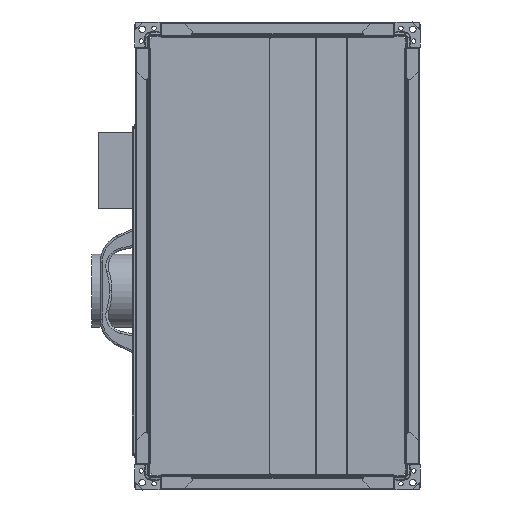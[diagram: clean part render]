
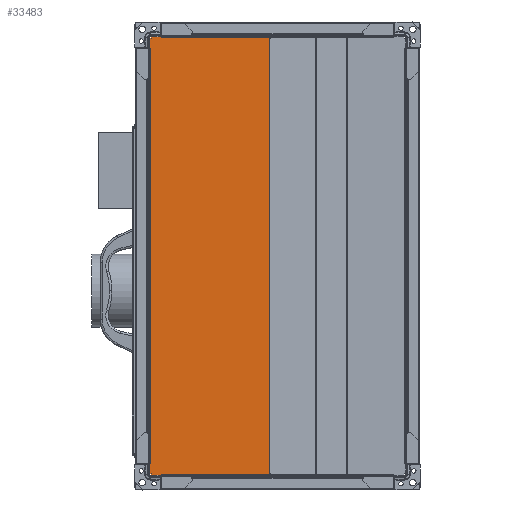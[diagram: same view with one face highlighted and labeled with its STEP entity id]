
A CAD part, left-side view. The second image highlights one B-rep face of the part: STEP entity #33483.
In plain terms, the highlighted planar face has unit normal (-1, 0, 0).
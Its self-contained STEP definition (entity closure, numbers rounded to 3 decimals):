
#2829=FACE_OUTER_BOUND('',#4608,.T.);
#4608=EDGE_LOOP('',(#24465,#24466,#24467,#24468,#24469,#24470,#24471,#24472,
#24473,#24474,#24475,#24476));
#7598=LINE('',#52947,#10736);
#7624=LINE('',#53004,#10762);
#7648=LINE('',#53057,#10786);
#7652=LINE('',#53065,#10790);
#7698=LINE('',#53150,#10836);
#7727=LINE('',#53198,#10865);
#7728=LINE('',#53201,#10866);
#7729=LINE('',#53202,#10867);
#7730=LINE('',#53204,#10868);
#7731=LINE('',#53206,#10869);
#7732=LINE('',#53207,#10870);
#7733=LINE('',#53208,#10871);
#10736=VECTOR('',#39187,10.);
#10762=VECTOR('',#39227,10.);
#10786=VECTOR('',#39265,10.);
#10790=VECTOR('',#39271,10.);
#10836=VECTOR('',#39333,10.);
#10865=VECTOR('',#39372,10.);
#10866=VECTOR('',#39375,10.);
#10867=VECTOR('',#39376,10.);
#10868=VECTOR('',#39377,10.);
#10869=VECTOR('',#39378,10.);
#10870=VECTOR('',#39379,10.);
#10871=VECTOR('',#39380,10.);
#13968=VERTEX_POINT('',#52944);
#13969=VERTEX_POINT('',#52946);
#13992=VERTEX_POINT('',#53001);
#13993=VERTEX_POINT('',#53003);
#14014=VERTEX_POINT('',#53055);
#14015=VERTEX_POINT('',#53056);
#14018=VERTEX_POINT('',#53064);
#14048=VERTEX_POINT('',#53147);
#14049=VERTEX_POINT('',#53149);
#14064=VERTEX_POINT('',#53200);
#14065=VERTEX_POINT('',#53203);
#14066=VERTEX_POINT('',#53205);
#17723=EDGE_CURVE('',#13968,#13969,#7598,.T.);
#17749=EDGE_CURVE('',#13992,#13993,#7624,.T.);
#17773=EDGE_CURVE('',#14014,#14015,#7648,.T.);
#17777=EDGE_CURVE('',#14015,#14018,#7652,.T.);
#17823=EDGE_CURVE('',#14048,#14049,#7698,.T.);
#17852=EDGE_CURVE('',#14049,#13992,#7727,.T.);
#17853=EDGE_CURVE('',#14014,#14064,#7728,.T.);
#17854=EDGE_CURVE('',#13993,#14064,#7729,.T.);
#17855=EDGE_CURVE('',#14065,#14048,#7730,.T.);
#17856=EDGE_CURVE('',#14065,#14066,#7731,.T.);
#17857=EDGE_CURVE('',#14066,#13969,#7732,.T.);
#17858=EDGE_CURVE('',#13968,#14018,#7733,.T.);
#24465=ORIENTED_EDGE('',*,*,#17853,.T.);
#24466=ORIENTED_EDGE('',*,*,#17854,.F.);
#24467=ORIENTED_EDGE('',*,*,#17749,.F.);
#24468=ORIENTED_EDGE('',*,*,#17852,.F.);
#24469=ORIENTED_EDGE('',*,*,#17823,.F.);
#24470=ORIENTED_EDGE('',*,*,#17855,.F.);
#24471=ORIENTED_EDGE('',*,*,#17856,.T.);
#24472=ORIENTED_EDGE('',*,*,#17857,.T.);
#24473=ORIENTED_EDGE('',*,*,#17723,.F.);
#24474=ORIENTED_EDGE('',*,*,#17858,.T.);
#24475=ORIENTED_EDGE('',*,*,#17777,.F.);
#24476=ORIENTED_EDGE('',*,*,#17773,.F.);
#31052=PLANE('',#35053);
#33483=ADVANCED_FACE('',(#2829),#31052,.F.);
#35053=AXIS2_PLACEMENT_3D('',#53199,#39373,#39374);
#39187=DIRECTION('',(0.,0.,1.));
#39227=DIRECTION('',(0.,0.,-1.));
#39265=DIRECTION('',(0.,1.,0.));
#39271=DIRECTION('',(0.,0.,1.));
#39333=DIRECTION('',(0.,0.,-1.));
#39372=DIRECTION('',(0.,1.,0.));
#39373=DIRECTION('center_axis',(1.,0.,0.));
#39374=DIRECTION('ref_axis',(0.,-1.,0.));
#39375=DIRECTION('',(0.,0.,-1.));
#39376=DIRECTION('',(0.,1.,0.));
#39377=DIRECTION('',(0.,-1.,0.));
#39378=DIRECTION('',(0.,0.,1.));
#39379=DIRECTION('',(0.,1.,0.));
#39380=DIRECTION('',(0.,1.,0.));
#52944=CARTESIAN_POINT('',(14.763,-15.569,581.5));
#52946=CARTESIAN_POINT('',(14.763,-15.569,583.5));
#52947=CARTESIAN_POINT('',(14.763,-15.569,433.25));
#53001=CARTESIAN_POINT('',(14.763,-176.74,-13.5));
#53003=CARTESIAN_POINT('',(14.763,-176.74,-15.5));
#53004=CARTESIAN_POINT('',(14.763,-176.74,134.75));
#53055=CARTESIAN_POINT('',(14.763,-15.569,-13.5));
#53056=CARTESIAN_POINT('',(14.763,-13.569,-13.5));
#53057=CARTESIAN_POINT('',(14.763,-14.593,-13.5));
#53064=CARTESIAN_POINT('',(14.763,-13.569,581.5));
#53065=CARTESIAN_POINT('',(14.763,-13.569,432.75));
#53147=CARTESIAN_POINT('',(14.763,-177.569,581.5));
#53149=CARTESIAN_POINT('',(14.763,-177.569,-13.5));
#53150=CARTESIAN_POINT('',(14.763,-177.569,284.));
#53198=CARTESIAN_POINT('',(14.763,-168.525,-13.5));
#53199=CARTESIAN_POINT('Origin',(14.763,-95.72,284.));
#53200=CARTESIAN_POINT('',(14.763,-15.569,-15.5));
#53201=CARTESIAN_POINT('',(14.763,-15.569,134.25));
#53202=CARTESIAN_POINT('',(14.763,-95.937,-15.5));
#53203=CARTESIAN_POINT('',(14.763,-176.74,581.5));
#53204=CARTESIAN_POINT('',(14.763,-136.937,581.5));
#53205=CARTESIAN_POINT('',(14.763,-176.74,583.5));
#53206=CARTESIAN_POINT('',(14.763,-176.74,433.75));
#53207=CARTESIAN_POINT('',(14.763,-95.937,583.5));
#53208=CARTESIAN_POINT('',(14.763,-55.168,581.5));
